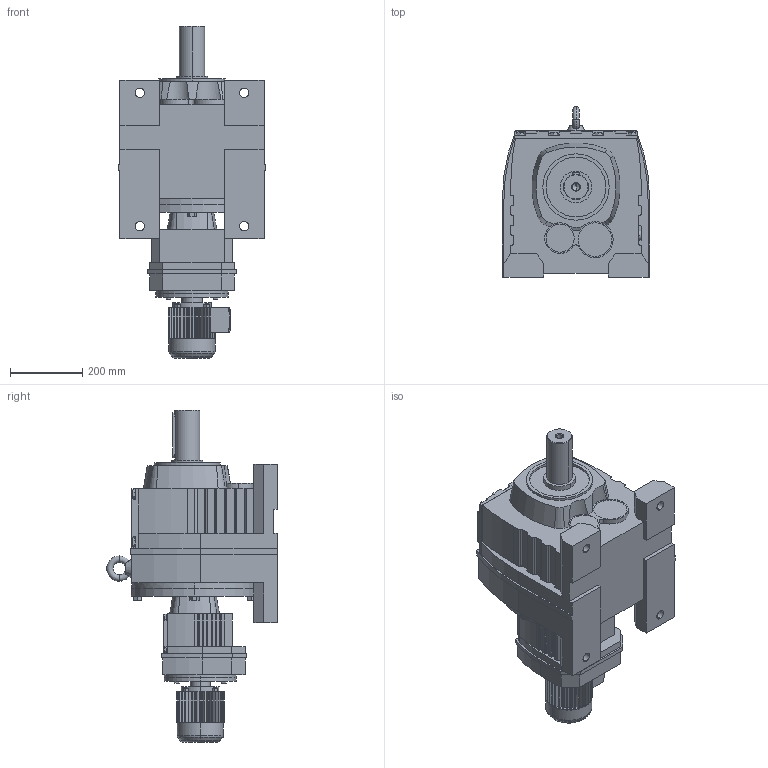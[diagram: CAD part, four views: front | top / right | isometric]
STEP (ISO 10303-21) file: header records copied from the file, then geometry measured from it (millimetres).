
FILE_DESCRIPTION(('Open CASCADE Model'),'2;1');
FILE_NAME('Open CASCADE Shape Model','2021-07-24T14:36:13',('Author'),( 'Open CASCADE'),'Open CASCADE STEP processor 6.3','Open CASCADE 6.3' ,'Unknown');
FILE_SCHEMA(('AUTOMOTIVE_DESIGN_CC2 { 1 2 10303 214 -1 1 5 4 }'));
Length unit declared in the file: millimetre
Products named in the file (4): 1_R107R77DR63; R37‵167_R107R77.step; 萇儂_200-DR63-179-234-132-105.step; R_107_77.step
Assembly tree (3 placements, depth 2):
  1_R107R77DR63
    R37‵167_R107R77.step
    萇儂_200-DR63-179-234-132-105.step
    R_107_77.step
Bounding box: 409 x 473.5 x 921 mm (x, y, z)
Volume: 59404283.3 mm3; surface area: 1719180.5 mm2
Topology: 3 solids, 3 shells, 975 faces, 2604 edges, 1695 vertices
Faces by surface type: plane 719, cylinder 218, cone 28, torus 10
Entity records: 67565 total; most frequent: CARTESIAN_POINT 17316, DIRECTION 8858, LINE 5287, VECTOR 5287, ORIENTED_EDGE 5204, PCURVE 5204, DEFINITIONAL_REPRESENTATION 5204, EDGE_CURVE 2602
